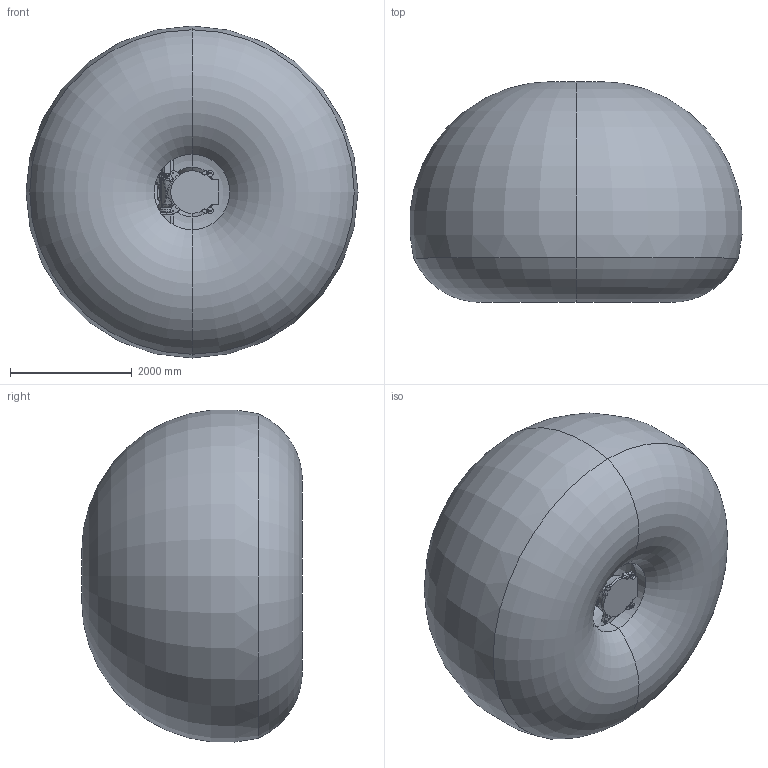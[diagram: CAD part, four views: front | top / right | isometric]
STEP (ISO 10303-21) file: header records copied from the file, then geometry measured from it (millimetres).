
FILE_DESCRIPTION (( 'STEP AP214' ), '1' );
FILE_NAME ('SMART-5 NJ4-220-2.7 (3D-STEP).STEP', '2011-03-31T14:37:27', ( '' ), ( '' ), 'SwSTEP 2.0', 'SolidWorks 2007', '' );
FILE_SCHEMA (( 'AUTOMOTIVE_DESIGN' ));
Length unit declared in the file: millimetre
Products named in the file (17): SMART-5 NJ4-220-2.7_CR82350090_SM; SMART-5 NJ4-220-2.7_CR82350050_SM; SMART-5 NJ4-220-2.7_CR82350051_SM; SMART-5 NJ4-220-2.7_p11; SMART-5 NJ4-220-2.7_p10; SMART-5 NJ4-220-2.7_p09; SMART-5 NJ4-220-2.7_p08; SMART-5 NJ4-220-2.7_p07; SMART-5 NJ4-220-2.7_p06; SMART-5 NJ4-220-2.7_CR82350080_SM; Operation Area SMART-5 NJ4-220-2.7; SMART-5 NJ4-220-2.7_p01; SMART-5 NJ4-220-2.7 (3D-STEP); SMART-5 NJ4-220-2.7_p05; SMART-5 NJ4-220-2.7_p04; SMART-5 NJ4-220-2.7_p03; SMART-5 NJ4-220-2.7_p02
Assembly tree (18 placements, depth 2):
  SMART-5 NJ4-220-2.7 (3D-STEP)
    SMART-5 NJ4-220-2.7_p06
    SMART-5 NJ4-220-2.7_p05
    SMART-5 NJ4-220-2.7_p04
    SMART-5 NJ4-220-2.7_p10
    SMART-5 NJ4-220-2.7_p07
    Operation Area SMART-5 NJ4-220-2.7
    SMART-5 NJ4-220-2.7_CR82350050_SM
    SMART-5 NJ4-220-2.7_p11
    SMART-5 NJ4-220-2.7_CR82350090_SM  x2
    SMART-5 NJ4-220-2.7_p09
    SMART-5 NJ4-220-2.7_p02
    SMART-5 NJ4-220-2.7_p01
    SMART-5 NJ4-220-2.7_CR82350051_SM  x2
    SMART-5 NJ4-220-2.7_p08
    SMART-5 NJ4-220-2.7_p03
    SMART-5 NJ4-220-2.7_CR82350080_SM
Bounding box: 5460.96 x 3630.12 x 5460.96 mm (x, y, z)
Volume: 60051640365.7 mm3; surface area: 106363701.5 mm2
Topology: 18 solids, 44 shells, 4740 faces, 12642 edges, 8202 vertices
Faces by surface type: plane 2013, cylinder 1898, bspline 465, cone 239, torus 117, sphere 8
Entity records: 197661 total; most frequent: CARTESIAN_POINT 75126, ORIENTED_EDGE 23986, DIRECTION 21944, EDGE_CURVE 11993, AXIS2_PLACEMENT_3D 7925, VERTEX_POINT 7864, VECTOR 6094, LINE 6094
